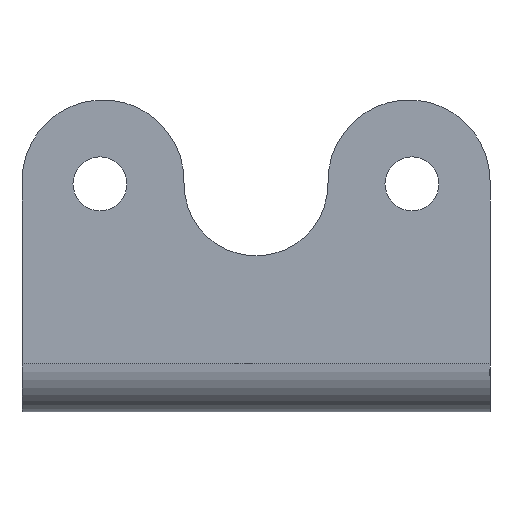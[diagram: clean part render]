
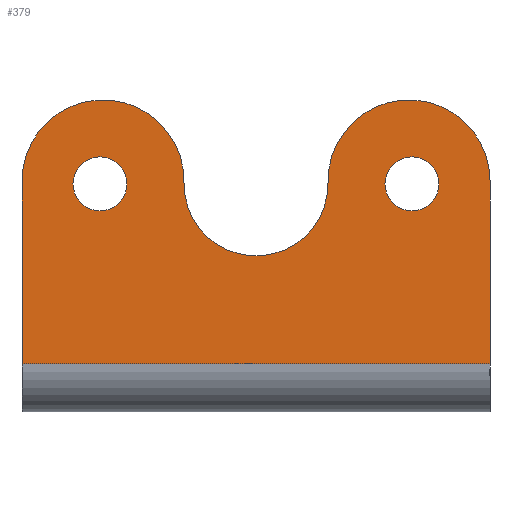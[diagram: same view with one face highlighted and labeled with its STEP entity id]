
A CAD part, front view. The second image highlights one B-rep face of the part: STEP entity #379.
In plain terms, the highlighted planar face has unit normal (0, -1, 0).
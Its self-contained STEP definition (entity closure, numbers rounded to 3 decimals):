
#19=PLANE('',#429);
#25=LINE('',#614,#45);
#31=LINE('',#626,#51);
#36=LINE('',#648,#56);
#45=VECTOR('',#499,39.);
#51=VECTOR('',#509,15.25);
#56=VECTOR('',#536,15.25);
#85=FACE_BOUND('',#142,.T.);
#86=FACE_BOUND('',#143,.T.);
#107=FACE_OUTER_BOUND('',#141,.T.);
#141=EDGE_LOOP('',(#333,#334,#335,#336,#337,#338));
#142=EDGE_LOOP('',(#339));
#143=EDGE_LOOP('',(#340));
#151=CIRCLE('',#389,2.25);
#154=CIRCLE('',#394,2.25);
#171=CIRCLE('',#421,6.002);
#172=CIRCLE('',#423,6.75);
#173=CIRCLE('',#425,6.75);
#179=VERTEX_POINT('',#564);
#182=VERTEX_POINT('',#572);
#198=VERTEX_POINT('',#611);
#199=VERTEX_POINT('',#613);
#203=VERTEX_POINT('',#624);
#207=VERTEX_POINT('',#636);
#208=VERTEX_POINT('',#637);
#209=VERTEX_POINT('',#642);
#215=EDGE_CURVE('',#179,#179,#151,.T.);
#218=EDGE_CURVE('',#182,#182,#154,.T.);
#235=EDGE_CURVE('',#198,#199,#25,.T.);
#242=EDGE_CURVE('',#198,#203,#31,.T.);
#247=EDGE_CURVE('',#207,#208,#171,.T.);
#251=EDGE_CURVE('',#208,#209,#172,.T.);
#252=EDGE_CURVE('',#203,#207,#173,.T.);
#253=EDGE_CURVE('',#199,#209,#36,.T.);
#333=ORIENTED_EDGE('',*,*,#235,.F.);
#334=ORIENTED_EDGE('',*,*,#242,.T.);
#335=ORIENTED_EDGE('',*,*,#252,.T.);
#336=ORIENTED_EDGE('',*,*,#247,.T.);
#337=ORIENTED_EDGE('',*,*,#251,.T.);
#338=ORIENTED_EDGE('',*,*,#253,.F.);
#339=ORIENTED_EDGE('',*,*,#215,.T.);
#340=ORIENTED_EDGE('',*,*,#218,.T.);
#379=ADVANCED_FACE('',(#107,#85,#86),#19,.T.);
#389=AXIS2_PLACEMENT_3D('',#565,#445,#446);
#394=AXIS2_PLACEMENT_3D('',#573,#455,#456);
#421=AXIS2_PLACEMENT_3D('',#638,#521,#522);
#423=AXIS2_PLACEMENT_3D('',#644,#528,#529);
#425=AXIS2_PLACEMENT_3D('',#646,#532,#533);
#429=AXIS2_PLACEMENT_3D('',#658,#545,#546);
#445=DIRECTION('center_axis',(0.,1.,0.));
#446=DIRECTION('ref_axis',(1.,0.,0.));
#455=DIRECTION('center_axis',(0.,1.,0.));
#456=DIRECTION('ref_axis',(1.,0.,0.));
#499=DIRECTION('',(-1.,0.,0.));
#509=DIRECTION('',(0.,0.,1.));
#521=DIRECTION('center_axis',(0.,1.,0.));
#522=DIRECTION('ref_axis',(1.,0.,-0.019));
#528=DIRECTION('center_axis',(0.,-1.,0.));
#529=DIRECTION('ref_axis',(1.,0.,0.));
#532=DIRECTION('center_axis',(0.,-1.,0.));
#533=DIRECTION('ref_axis',(1.,0.,0.));
#536=DIRECTION('',(0.,0.,1.));
#545=DIRECTION('center_axis',(0.,-1.,0.));
#546=DIRECTION('ref_axis',(1.,0.,0.));
#564=CARTESIAN_POINT('',(-15.25,0.,19.));
#565=CARTESIAN_POINT('Origin',(-13.,0.,19.));
#572=CARTESIAN_POINT('',(10.75,0.,19.));
#573=CARTESIAN_POINT('Origin',(13.,0.,19.));
#611=CARTESIAN_POINT('',(19.5,0.,4.));
#613=CARTESIAN_POINT('',(-19.5,0.,4.));
#614=CARTESIAN_POINT('',(-16.125,0.,4.));
#624=CARTESIAN_POINT('',(19.5,0.,19.25));
#626=CARTESIAN_POINT('',(19.5,0.,0.));
#636=CARTESIAN_POINT('',(6.001,0.,19.119));
#637=CARTESIAN_POINT('',(-6.001,0.,19.119));
#638=CARTESIAN_POINT('Origin',(0.,0.,
19.002));
#642=CARTESIAN_POINT('',(-19.5,0.,19.25));
#644=CARTESIAN_POINT('Origin',(-12.75,0.,19.25));
#646=CARTESIAN_POINT('Origin',(12.75,0.,19.25));
#648=CARTESIAN_POINT('',(-19.5,0.,0.));
#658=CARTESIAN_POINT('Origin',(-19.5,0.,0.));
